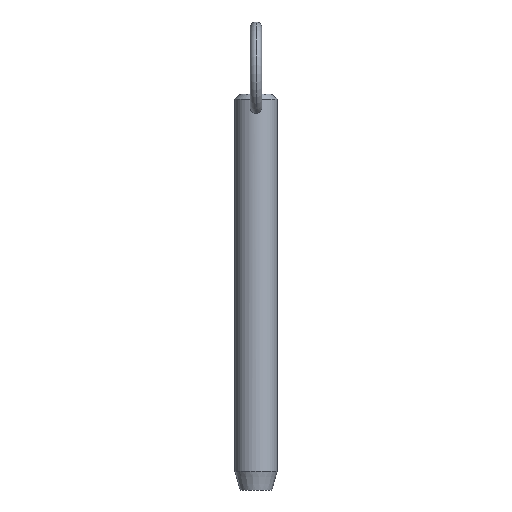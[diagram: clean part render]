
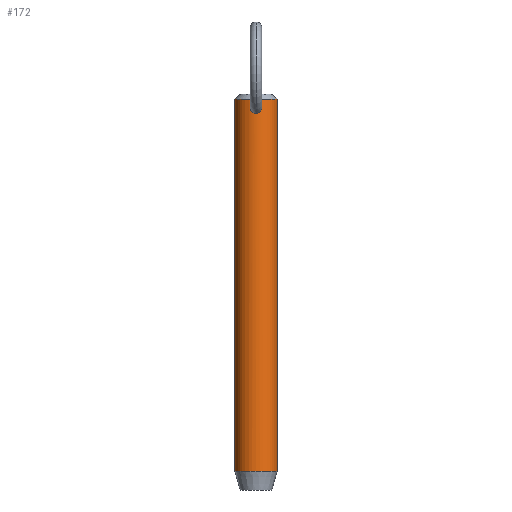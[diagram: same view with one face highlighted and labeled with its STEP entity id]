
A CAD part, front view. The second image highlights one B-rep face of the part: STEP entity #172.
In plain terms, the highlighted cylindrical face has radius 5.55 mm (diameter 11.1 mm), a partial arc.
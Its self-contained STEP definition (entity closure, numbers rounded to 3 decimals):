
#3 = CARTESIAN_POINT ( 'NONE',  ( 1.295, -5.397, 87.582 ) ) ;
#6 = CARTESIAN_POINT ( 'NONE',  ( 0.786, -5.497, 88.257 ) ) ;
#8 = ORIENTED_EDGE ( 'NONE', *, *, #237, .T. ) ;
#12 = CARTESIAN_POINT ( 'NONE',  ( 0.977, -5.464, 85.432 ) ) ;
#15 = B_SPLINE_CURVE_WITH_KNOTS ( 'NONE', 3,
 ( #278, #38, #156, #78, #406, #6, #119, #488, #3, #496, #414, #328, #333, #293, #247, #211, #160, #495, #12, #205, #125, #372, #49, #86, #454, #331 ),
 .UNSPECIFIED., .F., .F.,
 ( 4, 2, 2, 2, 2, 2, 2, 2, 2, 2, 2, 2, 4 ),
 ( 0.005, 0.005, 0.005, 0.006, 0.006, 0.007, 0.007, 0.008, 0.008, 0.009, 0.009, 0.009, 0.01 ),
 .UNSPECIFIED. ) ;
#22 = CARTESIAN_POINT ( 'NONE',  ( -0.523, -5.526, 85.166 ) ) ;
#25 = CARTESIAN_POINT ( 'NONE',  ( 0., 0., 83.8 ) ) ;
#27 = CARTESIAN_POINT ( 'NONE',  ( -1.485, -5.348, 86.979 ) ) ;
#28 = CARTESIAN_POINT ( 'NONE',  ( -0.107, -5.55, 85.077 ) ) ;
#38 = CARTESIAN_POINT ( 'NONE',  ( 0.106, -5.55, 88.545 ) ) ;
#47 = VECTOR ( 'NONE', #175, 1000. ) ;
#49 = CARTESIAN_POINT ( 'NONE',  ( 0.421, -5.535, 85.132 ) ) ;
#58 = EDGE_CURVE ( 'NONE', #279, #413, #330, .T. ) ;
#61 = CARTESIAN_POINT ( 'NONE',  ( 0., -5.55, 88.545 ) ) ;
#65 = CARTESIAN_POINT ( 'NONE',  ( -1.054, -5.449, 85.504 ) ) ;
#66 = CARTESIAN_POINT ( 'NONE',  ( -5.55, 0., 88.85 ) ) ;
#67 = VERTEX_POINT ( 'NONE', #61 ) ;
#72 = CARTESIAN_POINT ( 'NONE',  ( -0.416, -5.535, 88.467 ) ) ;
#74 = ORIENTED_EDGE ( 'NONE', *, *, #522, .T. ) ;
#78 = CARTESIAN_POINT ( 'NONE',  ( 0.417, -5.535, 88.467 ) ) ;
#86 = CARTESIAN_POINT ( 'NONE',  ( 0.213, -5.547, 85.088 ) ) ;
#103 = CARTESIAN_POINT ( 'NONE',  ( -0.212, -5.547, 85.088 ) ) ;
#105 = CARTESIAN_POINT ( 'NONE',  ( -1.5, -5.343, 86.553 ) ) ;
#106 = CARTESIAN_POINT ( 'NONE',  ( -1.44, -5.36, 87.187 ) ) ;
#112 = CARTESIAN_POINT ( 'NONE',  ( -1.294, -5.398, 87.586 ) ) ;
#115 = CARTESIAN_POINT ( 'NONE',  ( -0.211, -5.547, 88.529 ) ) ;
#119 = CARTESIAN_POINT ( 'NONE',  ( 0.941, -5.471, 88.107 ) ) ;
#120 = EDGE_CURVE ( 'NONE', #285, #413, #154, .T. ) ;
#125 = CARTESIAN_POINT ( 'NONE',  ( 0.716, -5.504, 85.252 ) ) ;
#135 = CARTESIAN_POINT ( 'NONE',  ( 0., 0., -9.2 ) ) ;
#143 = VERTEX_POINT ( 'NONE', #66 ) ;
#151 = CARTESIAN_POINT ( 'NONE',  ( 0., -5.55, 85.077 ) ) ;
#154 = LINE ( 'NONE', #418, #47 ) ;
#155 = AXIS2_PLACEMENT_3D ( 'NONE', #427, #349, #430 ) ;
#156 = CARTESIAN_POINT ( 'NONE',  ( 0.214, -5.547, 88.528 ) ) ;
#160 = CARTESIAN_POINT ( 'NONE',  ( 1.26, -5.407, 85.743 ) ) ;
#169 = B_SPLINE_CURVE_WITH_KNOTS ( 'NONE', 3,
 ( #390, #28, #103, #509, #22, #432, #392, #181, #65, #185, #223, #472, #346, #105, #266, #27, #106, #112, #519, #351, #273, #479, #72, #115, #275, #399 ),
 .UNSPECIFIED., .F., .F.,
 ( 4, 2, 2, 2, 2, 2, 2, 2, 2, 2, 2, 2, 4 ),
 ( 0.01, 0.01, 0.01, 0.011, 0.011, 0.012, 0.012, 0.012, 0.013, 0.013, 0.014, 0.014, 0.015 ),
 .UNSPECIFIED. ) ;
#172 = ADVANCED_FACE ( 'NONE', ( #363, #482 ), #357, .T. ) ;
#173 = AXIS2_PLACEMENT_3D ( 'NONE', #25, #179, #424 ) ;
#175 = DIRECTION ( 'NONE',  ( 0., 0., -1. ) ) ;
#179 = DIRECTION ( 'NONE',  ( 0., 0., -1. ) ) ;
#181 = CARTESIAN_POINT ( 'NONE',  ( -0.976, -5.464, 85.431 ) ) ;
#185 = CARTESIAN_POINT ( 'NONE',  ( -1.26, -5.407, 85.742 ) ) ;
#200 = DIRECTION ( 'NONE',  ( 0., 0., -1. ) ) ;
#205 = CARTESIAN_POINT ( 'NONE',  ( 0.807, -5.492, 85.306 ) ) ;
#211 = CARTESIAN_POINT ( 'NONE',  ( 1.363, -5.38, 85.934 ) ) ;
#213 = EDGE_LOOP ( 'NONE', ( #221, #8, #315, #439 ) ) ;
#221 = ORIENTED_EDGE ( 'NONE', *, *, #120, .F. ) ;
#223 = CARTESIAN_POINT ( 'NONE',  ( -1.362, -5.381, 85.932 ) ) ;
#237 = EDGE_CURVE ( 'NONE', #285, #143, #338, .T. ) ;
#247 = CARTESIAN_POINT ( 'NONE',  ( 1.455, -5.356, 86.238 ) ) ;
#254 = AXIS2_PLACEMENT_3D ( 'NONE', #135, #294, #341 ) ;
#265 = EDGE_CURVE ( 'NONE', #429, #67, #169, .T. ) ;
#266 = CARTESIAN_POINT ( 'NONE',  ( -1.503, -5.343, 86.659 ) ) ;
#273 = CARTESIAN_POINT ( 'NONE',  ( -0.785, -5.497, 88.258 ) ) ;
#275 = CARTESIAN_POINT ( 'NONE',  ( -0.106, -5.55, 88.545 ) ) ;
#278 = CARTESIAN_POINT ( 'NONE',  ( 0., -5.55, 88.545 ) ) ;
#279 = VERTEX_POINT ( 'NONE', #397 ) ;
#283 = VECTOR ( 'NONE', #200, 1000. ) ;
#285 = VERTEX_POINT ( 'NONE', #305 ) ;
#293 = CARTESIAN_POINT ( 'NONE',  ( 1.477, -5.35, 86.344 ) ) ;
#294 = DIRECTION ( 'NONE',  ( 0., 0., 1. ) ) ;
#298 = LINE ( 'NONE', #527, #283 ) ;
#305 = CARTESIAN_POINT ( 'NONE',  ( 5.55, 0., 88.85 ) ) ;
#315 = ORIENTED_EDGE ( 'NONE', *, *, #419, .T. ) ;
#328 = CARTESIAN_POINT ( 'NONE',  ( 1.503, -5.343, 86.659 ) ) ;
#330 = CIRCLE ( 'NONE', #254, 5.55 ) ;
#331 = CARTESIAN_POINT ( 'NONE',  ( 0., -5.55, 85.077 ) ) ;
#333 = CARTESIAN_POINT ( 'NONE',  ( 1.5, -5.343, 86.554 ) ) ;
#338 = CIRCLE ( 'NONE', #155, 5.55 ) ;
#341 = DIRECTION ( 'NONE',  ( -1., 0., 0. ) ) ;
#346 = CARTESIAN_POINT ( 'NONE',  ( -1.477, -5.35, 86.342 ) ) ;
#349 = DIRECTION ( 'NONE',  ( 0., 0., -1. ) ) ;
#351 = CARTESIAN_POINT ( 'NONE',  ( -0.939, -5.472, 88.11 ) ) ;
#357 = CYLINDRICAL_SURFACE ( 'NONE', #173, 5.55 ) ;
#363 = FACE_OUTER_BOUND ( 'NONE', #213, .T. ) ;
#372 = CARTESIAN_POINT ( 'NONE',  ( 0.523, -5.526, 85.166 ) ) ;
#390 = CARTESIAN_POINT ( 'NONE',  ( 0., -5.55, 85.077 ) ) ;
#392 = CARTESIAN_POINT ( 'NONE',  ( -0.807, -5.492, 85.305 ) ) ;
#397 = CARTESIAN_POINT ( 'NONE',  ( -5.55, 0., -9.2 ) ) ;
#399 = CARTESIAN_POINT ( 'NONE',  ( 0., -5.55, 88.545 ) ) ;
#406 = CARTESIAN_POINT ( 'NONE',  ( 0.515, -5.527, 88.422 ) ) ;
#413 = VERTEX_POINT ( 'NONE', #436 ) ;
#414 = CARTESIAN_POINT ( 'NONE',  ( 1.486, -5.347, 86.974 ) ) ;
#418 = CARTESIAN_POINT ( 'NONE',  ( 5.55, 0., 83.8 ) ) ;
#419 = EDGE_CURVE ( 'NONE', #143, #279, #298, .T. ) ;
#424 = DIRECTION ( 'NONE',  ( -1., 0., 0. ) ) ;
#427 = CARTESIAN_POINT ( 'NONE',  ( 0., 0., 88.85 ) ) ;
#429 = VERTEX_POINT ( 'NONE', #151 ) ;
#430 = DIRECTION ( 'NONE',  ( 1., 0., 0. ) ) ;
#432 = CARTESIAN_POINT ( 'NONE',  ( -0.716, -5.504, 85.252 ) ) ;
#436 = CARTESIAN_POINT ( 'NONE',  ( 5.55, 0., -9.2 ) ) ;
#439 = ORIENTED_EDGE ( 'NONE', *, *, #58, .T. ) ;
#454 = CARTESIAN_POINT ( 'NONE',  ( 0.107, -5.55, 85.077 ) ) ;
#472 = CARTESIAN_POINT ( 'NONE',  ( -1.455, -5.356, 86.236 ) ) ;
#479 = CARTESIAN_POINT ( 'NONE',  ( -0.513, -5.527, 88.423 ) ) ;
#482 = FACE_BOUND ( 'NONE', #487, .T. ) ;
#487 = EDGE_LOOP ( 'NONE', ( #74, #523 ) ) ;
#488 = CARTESIAN_POINT ( 'NONE',  ( 1.194, -5.422, 87.771 ) ) ;
#495 = CARTESIAN_POINT ( 'NONE',  ( 1.055, -5.449, 85.505 ) ) ;
#496 = CARTESIAN_POINT ( 'NONE',  ( 1.44, -5.36, 87.186 ) ) ;
#509 = CARTESIAN_POINT ( 'NONE',  ( -0.42, -5.535, 85.132 ) ) ;
#519 = CARTESIAN_POINT ( 'NONE',  ( -1.195, -5.421, 87.771 ) ) ;
#522 = EDGE_CURVE ( 'NONE', #67, #429, #15, .T. ) ;
#523 = ORIENTED_EDGE ( 'NONE', *, *, #265, .T. ) ;
#527 = CARTESIAN_POINT ( 'NONE',  ( -5.55, 0., 83.8 ) ) ;
